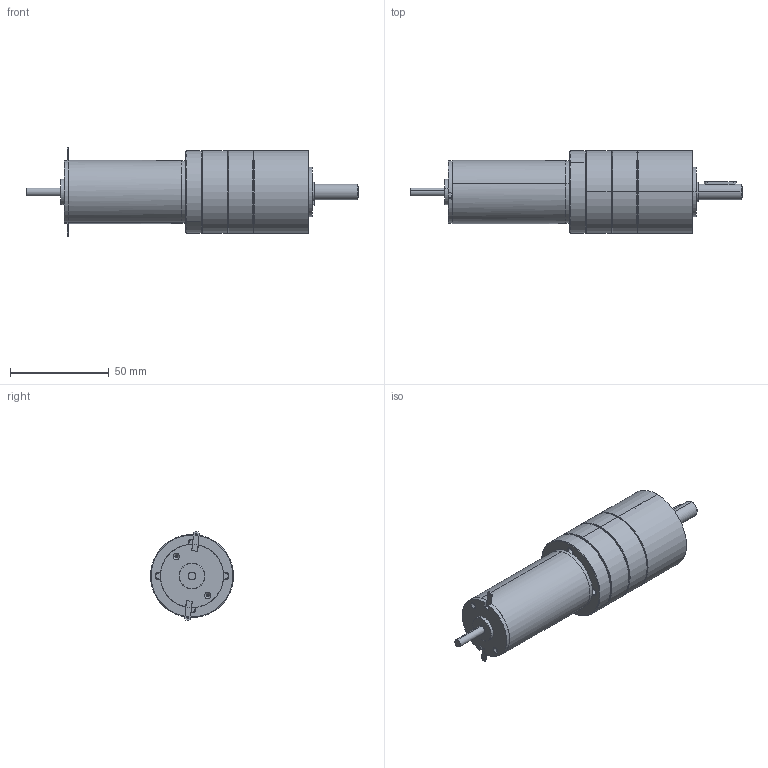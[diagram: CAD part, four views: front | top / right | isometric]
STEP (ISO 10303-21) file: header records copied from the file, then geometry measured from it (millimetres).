
FILE_DESCRIPTION (( 'STEP AP214' ), '1' );
FILE_NAME ('Amax32_+_PM42 -2etages.STEP', '2014-05-19T10:10:38', ( '' ), ( '' ), 'SwSTEP 2.0', 'SolidWorks 2013', '' );
FILE_SCHEMA (( 'AUTOMOTIVE_DESIGN' ));
Length unit declared in the file: millimetre
Products named in the file (16): P8209_8007589_ZAHNKRANZ_Z46_4; 8007606_DICHTRING_4; 3X3X16_D6885A_5; D471_8X0_8_5; 8001316_ABTRIEB_LK4_KPL_4; 8001305_LAGERBOLZEN_5; VBZ_K7841_ABTRIEB_AF0_5; DIN998_PS_8X14X1_5; D625-608-2RS_4; 8007595_LAGERFLANSCH_4; Amax32_+_PM42 -2etages; AMax32GHP_Part; SCHRAUBE_1241978_10; MOTORRITZEL_Z17_1280117; 8001288_ANLAUFSCHEIBE_1ST_4; MOTORFLANSCH_1254861
Assembly tree (25 placements, depth 3):
  Amax32_+_PM42 -2etages
    8007595_LAGERFLANSCH_4
    D625-608-2RS_4  x2
    DIN998_PS_8X14X1_5  x2
    8001316_ABTRIEB_LK4_KPL_4
      VBZ_K7841_ABTRIEB_AF0_5
      8001305_LAGERBOLZEN_5  x3
    D471_8X0_8_5
    3X3X16_D6885A_5
    8007606_DICHTRING_4  x3
    P8209_8007589_ZAHNKRANZ_Z46_4  x2
    MOTORFLANSCH_1254861
    8001288_ANLAUFSCHEIBE_1ST_4
    MOTORRITZEL_Z17_1280117
    SCHRAUBE_1241978_10  x4
    AMax32GHP_Part
Bounding box: 168.05 x 42 x 44.9 mm (x, y, z)
Volume: 74855.6 mm3; surface area: 57899.9 mm2
Topology: 21 solids, 47 shells, 1086 faces, 2830 edges, 1829 vertices
Faces by surface type: cylinder 528, plane 376, cone 126, bspline 52, torus 4
Entity records: 25444 total; most frequent: CARTESIAN_POINT 5484, DIRECTION 4149, ORIENTED_EDGE 3658, EDGE_CURVE 1857, AXIS2_PLACEMENT_3D 1600, VERTEX_POINT 1211, VECTOR 949, LINE 949
